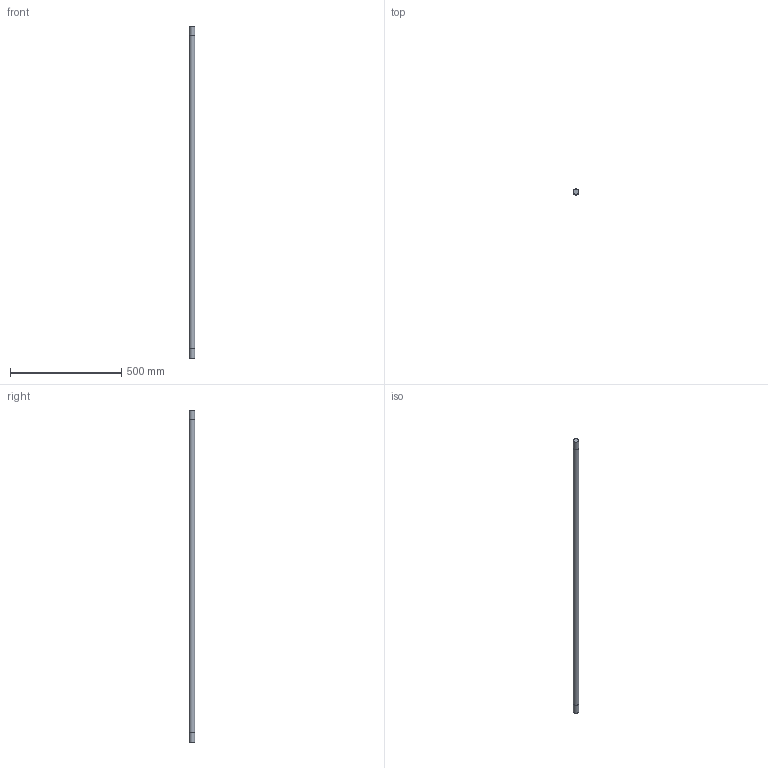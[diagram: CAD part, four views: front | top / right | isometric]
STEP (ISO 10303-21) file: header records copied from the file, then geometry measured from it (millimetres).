
FILE_DESCRIPTION(/* description */ (''),/* implementation_level */ '2;1');
FILE_NAME(/* name */ 'S:\UFFICIO TECNICO 2019\PRODOTTI ROTALIANA\SOUVLAKI\CONFIGURATORE\FILES X CONFIGURATORE\ipt INVENTOR\ASVTL003_tubo luminodo 1490mm.stp',/* time_stamp */ '2024-03-13T10:55:39+01:00',/* author */ ('mtesta'),/* organization */ (''),/* preprocessor_version */ 'ST-DEVELOPER v18.1',/* originating_system */ 'Autodesk Inventor 2021',/* authorisation */ '');
FILE_SCHEMA (('AUTOMOTIVE_DESIGN { 1 0 10303 214 3 1 1 }'));
Length unit declared in the file: millimetre
Products named in the file (1): A05650
Bounding box: 25.39 x 25.36 x 1490 mm (x, y, z)
Volume: 750934.3 mm3; surface area: 177925.7 mm2
Topology: 4 solids, 4 shells, 14 faces, 21 edges, 15 vertices
Faces by surface type: plane 10, cylinder 3, cone 1
Full cylindrical faces by diameter (mm): 25 x1
Entity records: 380 total; most frequent: DIRECTION 62, CARTESIAN_POINT 51, ORIENTED_EDGE 42, AXIS2_PLACEMENT_3D 26, EDGE_CURVE 21, VERTEX_POINT 15, FACE_OUTER_BOUND 14, EDGE_LOOP 14
